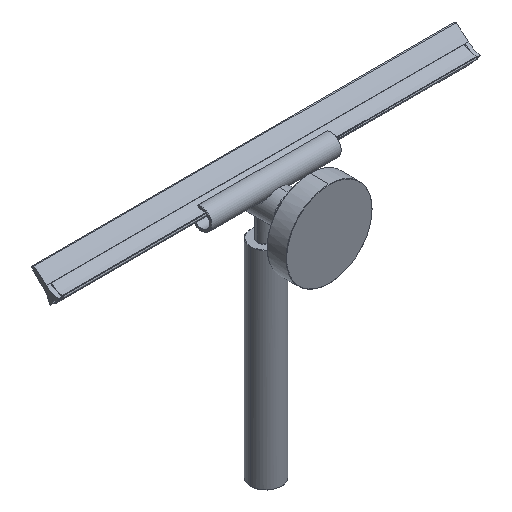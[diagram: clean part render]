
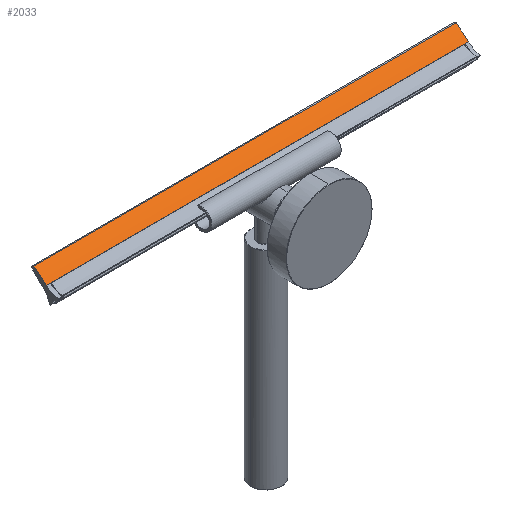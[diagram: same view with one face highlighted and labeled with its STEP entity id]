
A CAD part, isometric view. The second image highlights one B-rep face of the part: STEP entity #2033.
In plain terms, the highlighted cylindrical face has radius 109.672 mm (diameter 219.344 mm), a partial arc.
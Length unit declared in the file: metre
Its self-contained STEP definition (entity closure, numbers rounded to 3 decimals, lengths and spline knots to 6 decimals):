
#2003=VERTEX_POINT('',#2004);
#2004=CARTESIAN_POINT('',(-0.13,0.04431,0.0154));
#2020=VERTEX_POINT('',#2021);
#2021=CARTESIAN_POINT('',(0.13,0.04431,0.0154));
#2028=EDGE_CURVE('',#2020,#2003,#2029,.T.);
#2029=LINE('',#2030,#2031);
#2030=CARTESIAN_POINT('',(0.13,0.04431,0.0154));
#2031=VECTOR('',#2032,1.0);
#2032=DIRECTION('',(-1.0,0.0,0.0));
#2033=ADVANCED_FACE('',(#2039),#2034,.T.);
#2034=CYLINDRICAL_SURFACE('',#2035,0.109672);
#2035=AXIS2_PLACEMENT_3D('',#2036,#2037,#2038);
#2036=CARTESIAN_POINT('',(0.13,0.118376,-0.065483));
#2037=DIRECTION('',(-1.0,0.0,0.0));
#2038=DIRECTION('',(0.0,0.0,1.0));
#2039=FACE_OUTER_BOUND('',#2040,.T.);
#2040=EDGE_LOOP('',(#2041,#2050,#2051,#2060));
#2041=ORIENTED_EDGE('',*,*,#2042,.F.);
#2042=EDGE_CURVE('',#2003,#2043,#2045,.T.);
#2043=VERTEX_POINT('',#2044);
#2044=CARTESIAN_POINT('',(-0.13,0.051969,0.021798));
#2045=CIRCLE('',#2046,0.109672);
#2046=AXIS2_PLACEMENT_3D('',#2047,#2048,#2049);
#2047=CARTESIAN_POINT('',(-0.13,0.118376,-0.065483));
#2048=DIRECTION('',(-1.0,0.0,0.0));
#2049=DIRECTION('',(0.0,1.0,0.0));
#2050=ORIENTED_EDGE('',*,*,#2028,.F.);
#2051=ORIENTED_EDGE('',*,*,#2052,.T.);
#2052=EDGE_CURVE('',#2020,#2053,#2055,.T.);
#2053=VERTEX_POINT('',#2054);
#2054=CARTESIAN_POINT('',(0.13,0.051969,0.021798));
#2055=CIRCLE('',#2056,0.109672);
#2056=AXIS2_PLACEMENT_3D('',#2057,#2058,#2059);
#2057=CARTESIAN_POINT('',(0.13,0.118376,-0.065483));
#2058=DIRECTION('',(-1.0,0.0,0.0));
#2059=DIRECTION('',(0.0,1.0,0.0));
#2060=ORIENTED_EDGE('',*,*,#2061,.T.);
#2061=EDGE_CURVE('',#2053,#2043,#2062,.T.);
#2062=LINE('',#2063,#2064);
#2063=CARTESIAN_POINT('',(0.13,0.051969,0.021798));
#2064=VECTOR('',#2065,1.0);
#2065=DIRECTION('',(-1.0,0.0,0.0));
